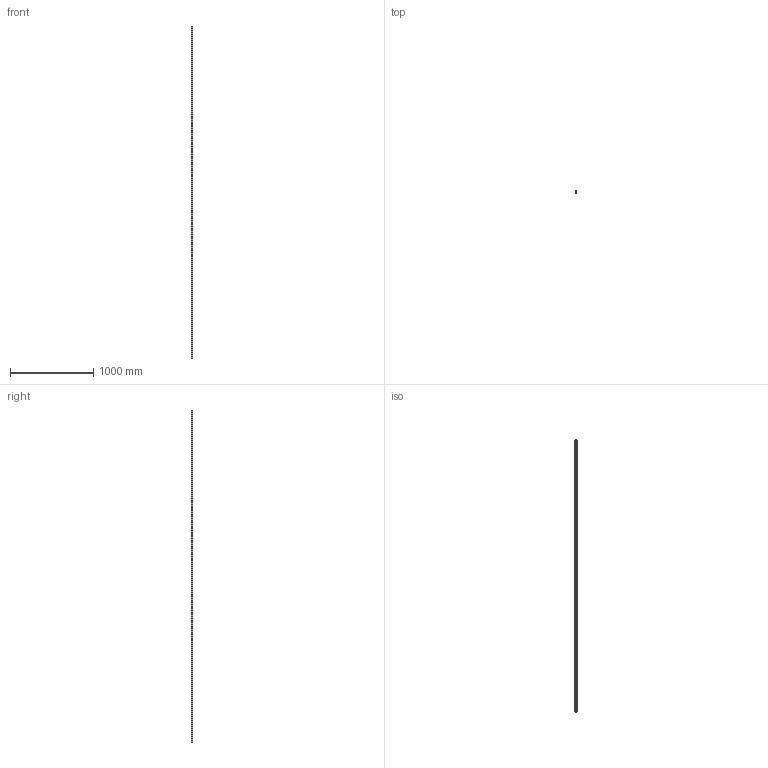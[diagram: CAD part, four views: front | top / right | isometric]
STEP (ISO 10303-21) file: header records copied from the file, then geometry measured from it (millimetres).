
FILE_DESCRIPTION (( 'STEP AP214' ), '1' );
FILE_NAME ('B20-4000-0054-0046.step', '2021-10-15T05:26:14', ( '' ), ( '' ), 'SwSTEP 2.0', 'SolidWorks 2010', '' );
FILE_SCHEMA (( 'AUTOMOTIVE_DESIGN' ));
Length unit declared in the file: millimetre
Products named in the file (1): B20-4000-0054-0046
Bounding box: 20 x 19 x 4000 mm (x, y, z)
Volume: 1252278.5 mm3; surface area: 332993.8 mm2
Topology: 1 solids, 1 shells, 293 faces, 741 edges, 384 vertices
Faces by surface type: cylinder 135, cone 132, plane 26
Entity records: 7819 total; most frequent: DIRECTION 1467, CARTESIAN_POINT 1287, ORIENTED_EDGE 1218, EDGE_CURVE 609, AXIS2_PLACEMENT_3D 564, VERTEX_POINT 384, EDGE_LOOP 359, VECTOR 339
